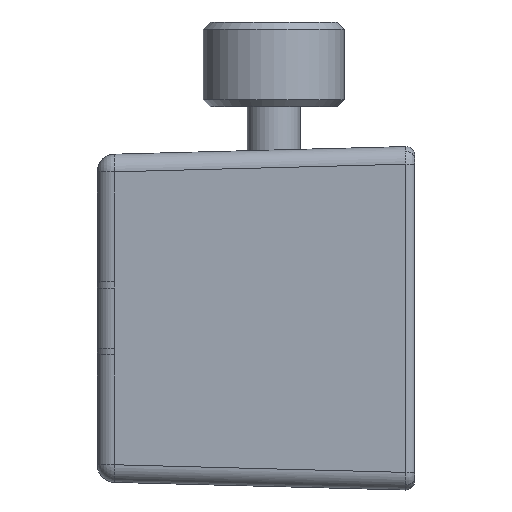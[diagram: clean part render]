
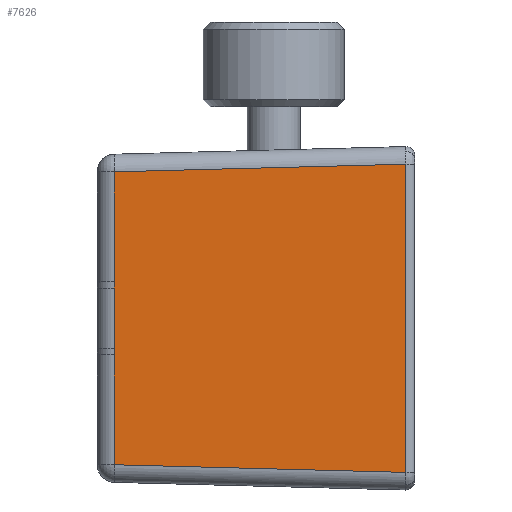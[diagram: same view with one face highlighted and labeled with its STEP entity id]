
A CAD part, left-side view. The second image highlights one B-rep face of the part: STEP entity #7626.
In plain terms, the highlighted planar face has unit normal (-1, 0.026, 0).
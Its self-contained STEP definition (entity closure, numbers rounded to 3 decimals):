
#30 = B_SPLINE_CURVE_WITH_KNOTS ( 'NONE', 3,
 ( #4391, #4362, #4382, #4393 ),
 .UNSPECIFIED., .F., .F.,
 ( 4, 4 ),
 ( 0., 0. ),
 .UNSPECIFIED. ) ;
#32 = B_SPLINE_CURVE_WITH_KNOTS ( 'NONE', 3,
 ( #4432, #4422, #4421, #4434 ),
 .UNSPECIFIED., .F., .F.,
 ( 4, 4 ),
 ( 0., 0. ),
 .UNSPECIFIED. ) ;
#884 = ORIENTED_EDGE ( 'NONE', *, *, #5965, .T. ) ;
#885 = ORIENTED_EDGE ( 'NONE', *, *, #5964, .T. ) ;
#886 = ORIENTED_EDGE ( 'NONE', *, *, #6031, .T. ) ;
#887 = ORIENTED_EDGE ( 'NONE', *, *, #6034, .T. ) ;
#888 = ORIENTED_EDGE ( 'NONE', *, *, #6037, .T. ) ;
#889 = ORIENTED_EDGE ( 'NONE', *, *, #6039, .T. ) ;
#890 = ORIENTED_EDGE ( 'NONE', *, *, #5966, .T. ) ;
#891 = ORIENTED_EDGE ( 'NONE', *, *, #5967, .T. ) ;
#1631 = AXIS2_PLACEMENT_3D ( 'NONE', #2587, #2595, #2596 ) ;
#1840 = CARTESIAN_POINT ( 'NONE',  ( 1.615, 18.896, -1.747 ) ) ;
#1868 = CARTESIAN_POINT ( 'NONE',  ( 1.615, 18.884, -1.39 ) ) ;
#1873 = CARTESIAN_POINT ( 'NONE',  ( 1.615, 18.884, -5.535 ) ) ;
#1876 = CARTESIAN_POINT ( 'NONE',  ( 1.615, 18.884, -11.767 ) ) ;
#1877 = CARTESIAN_POINT ( 'NONE',  ( 1.615, 18.896, -5.177 ) ) ;
#2109 = CARTESIAN_POINT ( 'NONE',  ( 1.182, 2.371, -12.199 ) ) ;
#2113 = CARTESIAN_POINT ( 'NONE',  ( 1.615, 18.884, 4.842 ) ) ;
#2144 = CARTESIAN_POINT ( 'NONE',  ( 1.182, 2.371, 5.275 ) ) ;
#2587 = CARTESIAN_POINT ( 'NONE',  ( 1.169, 1.858, -3.462 ) ) ;
#2592 = PLANE ( 'NONE',  #1631 ) ;
#2595 = DIRECTION ( 'NONE',  ( -1., 0.026, 0. ) ) ;
#2596 = DIRECTION ( 'NONE',  ( -0.026, -1., 0. ) ) ;
#2923 = FACE_OUTER_BOUND ( 'NONE', #8314, .T. ) ;
#4163 = DIRECTION ( 'NONE',  ( 0., 0., -1. ) ) ;
#4168 = CARTESIAN_POINT ( 'NONE',  ( 1.175, 2.087, 5.282 ) ) ;
#4170 = CARTESIAN_POINT ( 'NONE',  ( 1.615, 18.884, -11.741 ) ) ;
#4175 = DIRECTION ( 'NONE',  ( 0.026, 0.999, -0.026 ) ) ;
#4176 = CARTESIAN_POINT ( 'NONE',  ( 1.175, 2.087, -12.207 ) ) ;
#4177 = DIRECTION ( 'NONE',  ( -0.026, -0.999, -0.026 ) ) ;
#4178 = CARTESIAN_POINT ( 'NONE',  ( 1.182, 2.371, -3.462 ) ) ;
#4179 = DIRECTION ( 'NONE',  ( 0., 0., 1. ) ) ;
#4362 = CARTESIAN_POINT ( 'NONE',  ( 1.615, 18.884, -1.509 ) ) ;
#4382 = CARTESIAN_POINT ( 'NONE',  ( 1.615, 18.896, -1.628 ) ) ;
#4383 = DIRECTION ( 'NONE',  ( 0., 0., -1. ) ) ;
#4391 = CARTESIAN_POINT ( 'NONE',  ( 1.615, 18.884, -1.39 ) ) ;
#4393 = CARTESIAN_POINT ( 'NONE',  ( 1.615, 18.896, -1.747 ) ) ;
#4404 = CARTESIAN_POINT ( 'NONE',  ( 1.615, 18.896, -3.462 ) ) ;
#4421 = CARTESIAN_POINT ( 'NONE',  ( 1.615, 18.884, -5.415 ) ) ;
#4422 = CARTESIAN_POINT ( 'NONE',  ( 1.615, 18.896, -5.296 ) ) ;
#4424 = DIRECTION ( 'NONE',  ( 0., 0., -1. ) ) ;
#4432 = CARTESIAN_POINT ( 'NONE',  ( 1.615, 18.896, -5.177 ) ) ;
#4434 = CARTESIAN_POINT ( 'NONE',  ( 1.615, 18.884, -5.535 ) ) ;
#4441 = CARTESIAN_POINT ( 'NONE',  ( 1.615, 18.884, -11.741 ) ) ;
#4773 = LINE ( 'NONE', #4170, #4792 ) ;
#4788 = LINE ( 'NONE', #4168, #4796 ) ;
#4792 = VECTOR ( 'NONE', #4163, 1000. ) ;
#4794 = LINE ( 'NONE', #4176, #4798 ) ;
#4796 = VECTOR ( 'NONE', #4175, 1000. ) ;
#4797 = LINE ( 'NONE', #4178, #4803 ) ;
#4798 = VECTOR ( 'NONE', #4177, 1000. ) ;
#4803 = VECTOR ( 'NONE', #4179, 1000. ) ;
#4933 = LINE ( 'NONE', #4404, #4941 ) ;
#4941 = VECTOR ( 'NONE', #4383, 1000. ) ;
#4943 = LINE ( 'NONE', #4441, #4949 ) ;
#4949 = VECTOR ( 'NONE', #4424, 1000. ) ;
#5964 = EDGE_CURVE ( 'NONE', #7216, #6894, #4773, .T. ) ;
#5965 = EDGE_CURVE ( 'NONE', #7247, #7216, #4788, .T. ) ;
#5966 = EDGE_CURVE ( 'NONE', #6902, #7210, #4794, .T. ) ;
#5967 = EDGE_CURVE ( 'NONE', #7210, #7247, #4797, .T. ) ;
#6031 = EDGE_CURVE ( 'NONE', #6894, #6866, #30, .T. ) ;
#6034 = EDGE_CURVE ( 'NONE', #6866, #6903, #4933, .T. ) ;
#6037 = EDGE_CURVE ( 'NONE', #6903, #6899, #32, .T. ) ;
#6039 = EDGE_CURVE ( 'NONE', #6899, #6902, #4943, .T. ) ;
#6866 = VERTEX_POINT ( 'NONE', #1840 ) ;
#6894 = VERTEX_POINT ( 'NONE', #1868 ) ;
#6899 = VERTEX_POINT ( 'NONE', #1873 ) ;
#6902 = VERTEX_POINT ( 'NONE', #1876 ) ;
#6903 = VERTEX_POINT ( 'NONE', #1877 ) ;
#7210 = VERTEX_POINT ( 'NONE', #2109 ) ;
#7216 = VERTEX_POINT ( 'NONE', #2113 ) ;
#7247 = VERTEX_POINT ( 'NONE', #2144 ) ;
#7626 = ADVANCED_FACE ( 'NONE', ( #2923 ), #2592, .T. ) ;
#8314 = EDGE_LOOP ( 'NONE', ( #884, #885, #886, #887, #888, #889, #890, #891 ) ) ;
